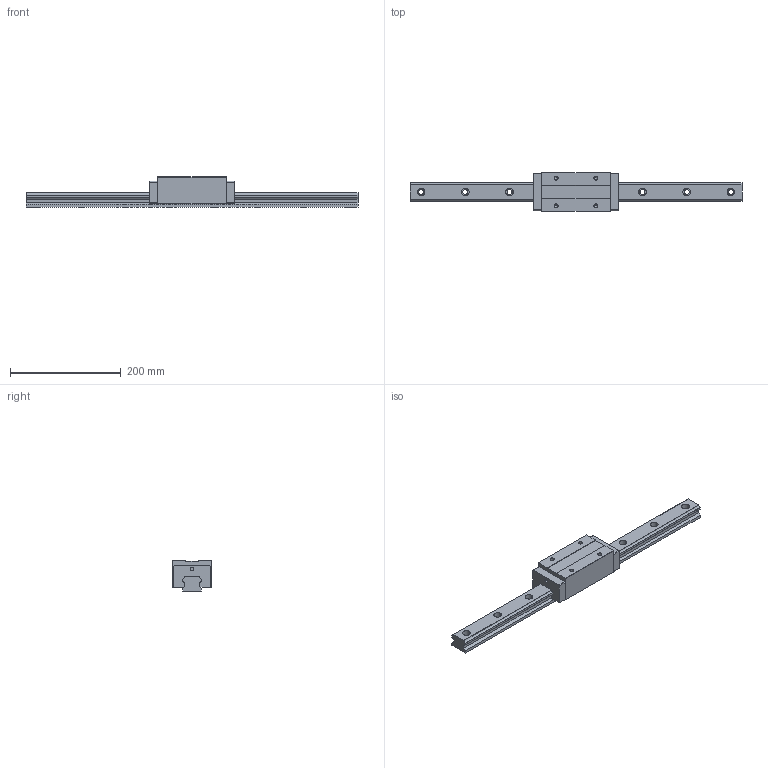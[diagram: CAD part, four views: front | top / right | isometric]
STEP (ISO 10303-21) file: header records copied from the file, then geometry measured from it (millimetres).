
FILE_DESCRIPTION (( 'STEP AP203' ), '1' );
FILE_NAME ('TRH35VE-XN-§ï.STEP', '2023-08-30T03:56:01', ( '' ), ( '' ), 'SwSTEP 2.0', 'SolidWorks 2022', '' );
FILE_SCHEMA (( 'CONFIG_CONTROL_DESIGN' ));
Length unit declared in the file: millimetre
Products named in the file (1): TRH35VE-XN-改
Bounding box: 600 x 70 x 55 mm (x, y, z)
Volume: 849836.4 mm3; surface area: 126609.1 mm2
Topology: 1 solids, 1 shells, 170 faces, 464 edges, 300 vertices
Faces by surface type: cylinder 80, plane 74, cone 16
Entity records: 5465 total; most frequent: DIRECTION 966, CARTESIAN_POINT 927, ORIENTED_EDGE 912, EDGE_CURVE 456, AXIS2_PLACEMENT_3D 339, VERTEX_POINT 300, LINE 288, VECTOR 288
